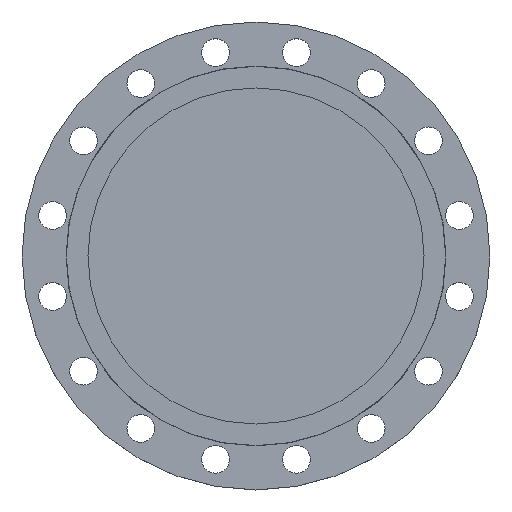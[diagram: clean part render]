
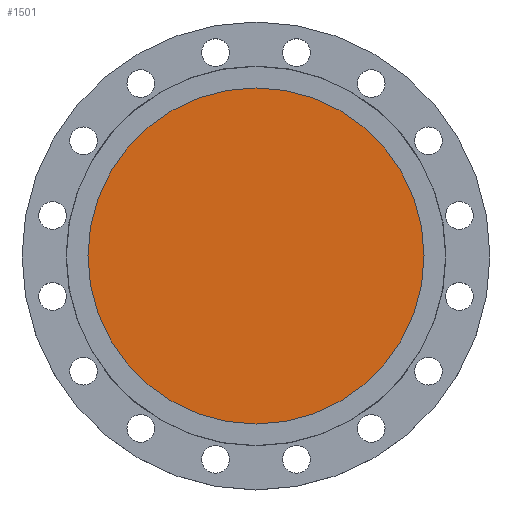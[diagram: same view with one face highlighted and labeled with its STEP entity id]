
A CAD part, top view. The second image highlights one B-rep face of the part: STEP entity #1501.
In plain terms, the highlighted planar face has unit normal (0, 0, 1).
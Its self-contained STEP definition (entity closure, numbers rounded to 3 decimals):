
#45 = DIRECTION ( 'NONE',  ( 0., 0., -1. ) ) ;
#46 = CARTESIAN_POINT ( 'NONE',  ( 0., 0., -5. ) ) ;
#142 = DIRECTION ( 'NONE',  ( 1., 0., 0. ) ) ;
#145 = DIRECTION ( 'NONE',  ( 0., 0., 1. ) ) ;
#147 = CARTESIAN_POINT ( 'NONE',  ( 237., 0., -5. ) ) ;
#148 = PLANE ( 'NONE',  #1187 ) ;
#149 = FACE_OUTER_BOUND ( 'NONE', #1125, .T. ) ;
#152 = CARTESIAN_POINT ( 'NONE',  ( 237., 0., -5. ) ) ;
#159 = EDGE_CURVE ( 'NONE', #1166, #1497, #1529, .T. ) ;
#387 = CARTESIAN_POINT ( 'NONE',  ( -237., 0., -5. ) ) ;
#808 = AXIS2_PLACEMENT_3D ( 'NONE', #46, #45, #1332 ) ;
#882 = AXIS2_PLACEMENT_3D ( 'NONE', #966, #965, #964 ) ;
#964 = DIRECTION ( 'NONE',  ( -1., 0., 0. ) ) ;
#965 = DIRECTION ( 'NONE',  ( 0., 0., -1. ) ) ;
#966 = CARTESIAN_POINT ( 'NONE',  ( 0., 0., -5. ) ) ;
#1125 = EDGE_LOOP ( 'NONE', ( #1670, #1286 ) ) ;
#1166 = VERTEX_POINT ( 'NONE', #387 ) ;
#1187 = AXIS2_PLACEMENT_3D ( 'NONE', #147, #145, #142 ) ;
#1286 = ORIENTED_EDGE ( 'NONE', *, *, #1673, .F. ) ;
#1332 = DIRECTION ( 'NONE',  ( -1., 0., 0. ) ) ;
#1356 = CIRCLE ( 'NONE', #808, 237. ) ;
#1497 = VERTEX_POINT ( 'NONE', #152 ) ;
#1501 = ADVANCED_FACE ( 'NONE', ( #149 ), #148, .T. ) ;
#1529 = CIRCLE ( 'NONE', #882, 237. ) ;
#1670 = ORIENTED_EDGE ( 'NONE', *, *, #159, .F. ) ;
#1673 = EDGE_CURVE ( 'NONE', #1497, #1166, #1356, .T. ) ;
